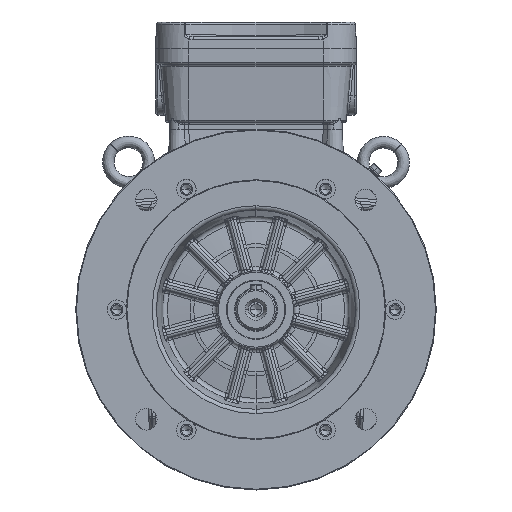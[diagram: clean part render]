
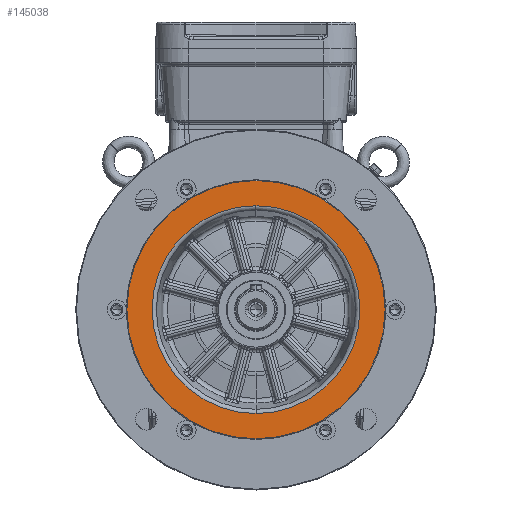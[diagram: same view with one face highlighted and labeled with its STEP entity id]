
A CAD part, top view. The second image highlights one B-rep face of the part: STEP entity #145038.
In plain terms, the highlighted planar face has unit normal (0, 0, 1).
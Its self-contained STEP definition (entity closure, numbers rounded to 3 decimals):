
#2473 = ORIENTED_EDGE ( 'NONE', *, *, #150502, .T. ) ;
#4717 = VERTEX_POINT ( 'NONE', #88720 ) ;
#6749 = ORIENTED_EDGE ( 'NONE', *, *, #77108, .T. ) ;
#8004 = VERTEX_POINT ( 'NONE', #34300 ) ;
#9113 = PLANE ( 'NONE',  #68670 ) ;
#11408 = DIRECTION ( 'NONE',  ( 0., -1., 0. ) ) ;
#12517 = ORIENTED_EDGE ( 'NONE', *, *, #36669, .T. ) ;
#19819 = CIRCLE ( 'NONE', #63411, 89.5 ) ;
#26288 = CIRCLE ( 'NONE', #51177, 72.017 ) ;
#28206 = DIRECTION ( 'NONE',  ( 0., 0., -1. ) ) ;
#31372 = VERTEX_POINT ( 'NONE', #166280 ) ;
#32209 = AXIS2_PLACEMENT_3D ( 'NONE', #139956, #85466, #46595 ) ;
#34300 = CARTESIAN_POINT ( 'NONE',  ( 0., 72.017, 38.5 ) ) ;
#36669 = EDGE_CURVE ( 'NONE', #60565, #4717, #19819, .T. ) ;
#37312 = CIRCLE ( 'NONE', #32209, 89.5 ) ;
#42461 = DIRECTION ( 'NONE',  ( 0., -1., 0. ) ) ;
#46512 = EDGE_LOOP ( 'NONE', ( #12517, #6749 ) ) ;
#46595 = DIRECTION ( 'NONE',  ( 0., -1., 0. ) ) ;
#51177 = AXIS2_PLACEMENT_3D ( 'NONE', #160418, #28206, #80999 ) ;
#60565 = VERTEX_POINT ( 'NONE', #147670 ) ;
#61594 = AXIS2_PLACEMENT_3D ( 'NONE', #150282, #163085, #42461 ) ;
#63411 = AXIS2_PLACEMENT_3D ( 'NONE', #111900, #71384, #165320 ) ;
#64161 = CARTESIAN_POINT ( 'NONE',  ( -90., 0., 38.5 ) ) ;
#68670 = AXIS2_PLACEMENT_3D ( 'NONE', #64161, #77526, #11408 ) ;
#71384 = DIRECTION ( 'NONE',  ( 0., 0., 1. ) ) ;
#76150 = ORIENTED_EDGE ( 'NONE', *, *, #166778, .T. ) ;
#77108 = EDGE_CURVE ( 'NONE', #4717, #60565, #37312, .T. ) ;
#77526 = DIRECTION ( 'NONE',  ( 0., 0., -1. ) ) ;
#80999 = DIRECTION ( 'NONE',  ( 0., -1., 0. ) ) ;
#81918 = EDGE_LOOP ( 'NONE', ( #2473, #76150 ) ) ;
#85466 = DIRECTION ( 'NONE',  ( 0., 0., 1. ) ) ;
#88720 = CARTESIAN_POINT ( 'NONE',  ( 0., 89.5, 38.5 ) ) ;
#93375 = FACE_OUTER_BOUND ( 'NONE', #46512, .T. ) ;
#101681 = FACE_BOUND ( 'NONE', #81918, .T. ) ;
#111900 = CARTESIAN_POINT ( 'NONE',  ( 0., 0., 38.5 ) ) ;
#122946 = CIRCLE ( 'NONE', #61594, 72.017 ) ;
#139956 = CARTESIAN_POINT ( 'NONE',  ( 0., 0., 38.5 ) ) ;
#145038 = ADVANCED_FACE ( 'NONE', ( #93375, #101681 ), #9113, .F. ) ;
#147670 = CARTESIAN_POINT ( 'NONE',  ( 0., -89.5, 38.5 ) ) ;
#150282 = CARTESIAN_POINT ( 'NONE',  ( 0., 0., 38.5 ) ) ;
#150502 = EDGE_CURVE ( 'NONE', #31372, #8004, #122946, .T. ) ;
#160418 = CARTESIAN_POINT ( 'NONE',  ( 0., 0., 38.5 ) ) ;
#163085 = DIRECTION ( 'NONE',  ( 0., 0., -1. ) ) ;
#165320 = DIRECTION ( 'NONE',  ( 0., -1., 0. ) ) ;
#166280 = CARTESIAN_POINT ( 'NONE',  ( 0., -72.017, 38.5 ) ) ;
#166778 = EDGE_CURVE ( 'NONE', #8004, #31372, #26288, .T. ) ;
